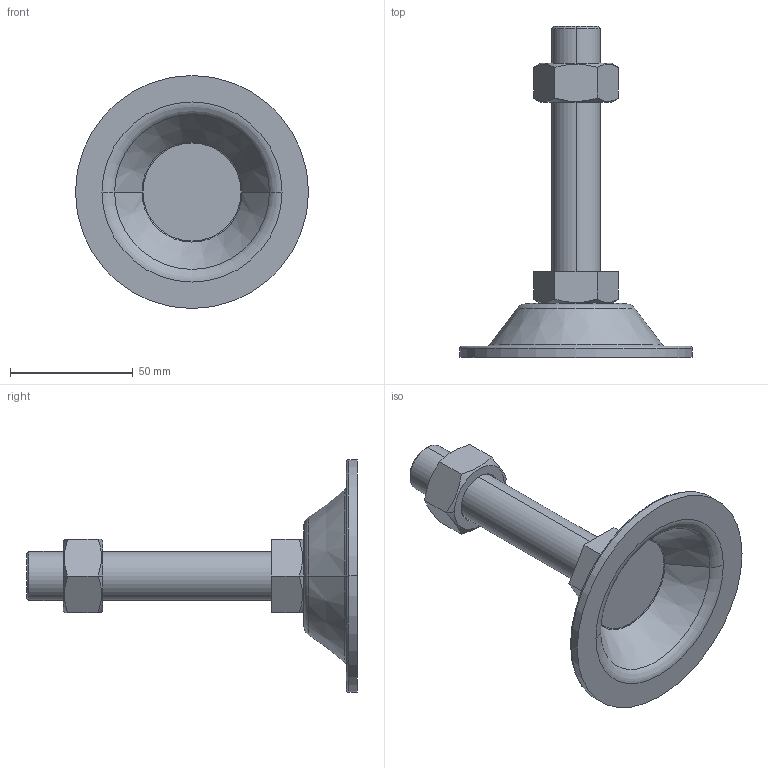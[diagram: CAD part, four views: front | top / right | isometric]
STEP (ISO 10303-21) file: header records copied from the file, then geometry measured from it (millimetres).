
FILE_DESCRIPTION (( 'STEP AP214' ), '1' );
FILE_NAME ('BL95-M20-100.step', '2021-01-06T05:41:18', ( '' ), ( '' ), 'SwSTEP 2.0', 'SolidWorks 2019', '' );
FILE_SCHEMA (( 'AUTOMOTIVE_DESIGN' ));
Length unit declared in the file: millimetre
Products named in the file (1): BL95-M20-100
Bounding box: 95 x 135 x 95 mm (x, y, z)
Volume: 87045.6 mm3; surface area: 30783.9 mm2
Topology: 3 solids, 3 shells, 53 faces, 110 edges, 66 vertices
Faces by surface type: plane 21, cone 16, torus 10, cylinder 6
Entity records: 1630 total; most frequent: CARTESIAN_POINT 440, DIRECTION 252, ORIENTED_EDGE 220, EDGE_CURVE 110, AXIS2_PLACEMENT_3D 106, VERTEX_POINT 66, EDGE_LOOP 58, FACE_OUTER_BOUND 53
